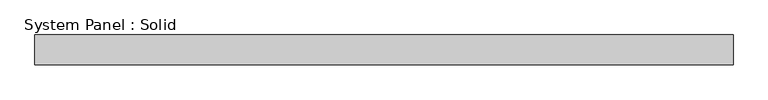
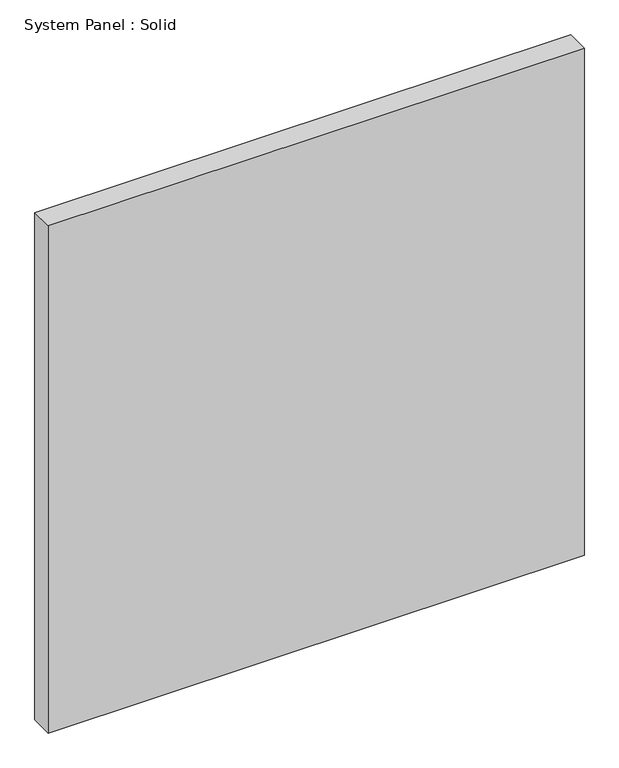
"""IFC4 building model written with IfcOpenShell, lengths in millimetres: plate geometry, System Panel : Solid."""

import ifcopenshell
import ifcopenshell.guid

model = None  # the IFC model being written
_history = None  # IfcOwnerHistory: only IFC2X3 demands one
_inside = {}  # id of a spatial element -> (the spatial element, [elements in it])
_under = {}  # id of a project, library or spatial element -> (it, [spatial elements below it])
_declared = {}  # id of a project -> (the project, [libraries it declares])
_typed = {}  # id of a type object -> (the type object, [elements of that type])
_made_of = {}  # id of a material, layer set ... -> (it, [elements and type objects made of it])


def new_model(schema):
    """Start an empty IFC model of exactly this schema.

    Asked for "IFC4X3", IfcOpenShell would pick the latest addendum, in which some entities
    have other attributes; the version numbers below select the first issue.
    IFC2X3 requires an IfcOwnerHistory on every rooted entity: one is made here for all.
    """
    global model, _history
    if schema == "IFC4X3":
        model = ifcopenshell.file(schema_version=(4, 3, 0, 0))
    else:
        model = ifcopenshell.file(schema=schema)
    _inside.clear()
    _under.clear()
    _declared.clear()
    _typed.clear()
    _made_of.clear()
    _history = None
    if model.schema == "IFC2X3":
        org = make("IfcOrganization", Name="unknown")
        user = make(
            "IfcPersonAndOrganization",
            ThePerson=make("IfcPerson", FamilyName="unknown"),
            TheOrganization=org,
        )
        app = make(
            "IfcApplication",
            ApplicationDeveloper=org,
            Version="unknown",
            ApplicationFullName="unknown",
            ApplicationIdentifier="unknown",
        )
        _history = make(
            "IfcOwnerHistory",
            OwningUser=user,
            OwningApplication=app,
            ChangeAction="ADDED",
            CreationDate=0,
        )
    return model


def make(cls, **values):
    """One entity of the class cls with the attributes given. An attribute that is None is left unset."""
    return model.create_entity(
        cls, **{name: value for name, value in values.items() if value is not None}
    )


def rooted(cls, **values):
    """An entity with a GlobalId (a new one), such as an element, a storey or a relation."""
    return make(cls, GlobalId=ifcopenshell.guid.new(), OwnerHistory=_history, **values)


def si_unit(unit_type, name, prefix=None):
    """IfcSIUnit, for example si_unit("LENGTHUNIT", "METRE", prefix="MILLI")."""
    return make("IfcSIUnit", UnitType=unit_type, Prefix=prefix, Name=name)


def assignment(units):
    """IfcUnitAssignment: the units of a project."""
    return None if units is None else make("IfcUnitAssignment", Units=units)


def point(xyz):
    """IfcCartesianPoint."""
    return None if xyz is None else make("IfcCartesianPoint", Coordinates=xyz)


def direction(xyz):
    """IfcDirection."""
    return None if xyz is None else make("IfcDirection", DirectionRatios=xyz)


def frame(location, z_axis=None, x_axis=None):
    """IfcAxis2Placement3D, a coordinate frame: its origin and axes. An axis left out is left unset."""
    return make(
        "IfcAxis2Placement3D",
        Location=point(location),
        Axis=direction(z_axis),
        RefDirection=direction(x_axis),
    )


def origin():
    """The frame at (0, 0, 0) with its axes left unset."""
    return frame((0.0, 0.0, 0.0))


def origin_with_axes():
    """The frame at (0, 0, 0) with the z axis (0, 0, 1) and the x axis (1, 0, 0) written out."""
    return frame((0.0, 0.0, 0.0), z_axis=(0.0, 0.0, 1.0), x_axis=(1.0, 0.0, 0.0))


def place(relative_to, where):
    """IfcLocalPlacement: puts the frame where relative to a parent placement (None: the world)."""
    return make(
        "IfcLocalPlacement", PlacementRelTo=relative_to, RelativePlacement=where
    )


def context(
    kind, dimensions, precision=None, world=None, true_north=None, identifier=None
):
    """IfcGeometricRepresentationContext, for example the 3D "Model" context."""
    return make(
        "IfcGeometricRepresentationContext",
        ContextIdentifier=identifier,
        ContextType=kind,
        CoordinateSpaceDimension=dimensions,
        Precision=precision,
        WorldCoordinateSystem=world,
        TrueNorth=true_north,
    )


def project(units=None, contexts=None):
    """IfcProject with its units and contexts."""
    return rooted(
        "IfcProject",
        Name="project",
        RepresentationContexts=contexts,
        UnitsInContext=assignment(units),
    )


def spatial(cls, under=None, at=None, **own):
    """A site, building, storey or space (cls), placed at a placement, below another one or the project."""
    s = rooted(cls, ObjectPlacement=at, **own)
    if under is not None:
        _under.setdefault(under.id(), (under, []))[1].append(s)
    return s


def polyline(points):
    """IfcPolyline through the points."""
    return make("IfcPolyline", Points=[point(p) for p in points])


def outline(outer, holes=None, kind="AREA"):
    """IfcArbitraryClosedProfileDef: a profile drawn as a closed curve; with holes, ...WithVoids."""
    if holes is None:
        return make("IfcArbitraryClosedProfileDef", ProfileType=kind, OuterCurve=outer)
    return make(
        "IfcArbitraryProfileDefWithVoids",
        ProfileType=kind,
        OuterCurve=outer,
        InnerCurves=holes,
    )


def extrude(swept, where, along, depth):
    """IfcExtrudedAreaSolid: the profile swept, set in the frame where, extruded along a direction by depth."""
    return make(
        "IfcExtrudedAreaSolid",
        SweptArea=swept,
        Position=where,
        ExtrudedDirection=direction(along),
        Depth=depth,
    )


def shape(context_of_items, identifier, shape_type, items):
    """IfcShapeRepresentation: the items that make up one representation, for example the "Body"."""
    return make(
        "IfcShapeRepresentation",
        ContextOfItems=context_of_items,
        RepresentationIdentifier=identifier,
        RepresentationType=shape_type,
        Items=items,
    )


def source(mapping_origin, context_of_items, identifier, shape_type, items):
    """IfcRepresentationMap: a shape defined once, which mapped items show again and again."""
    return make(
        "IfcRepresentationMap",
        MappingOrigin=mapping_origin,
        MappedRepresentation=shape(context_of_items, identifier, shape_type, items),
    )


def transform(
    local_origin,
    x_axis=None,
    y_axis=None,
    z_axis=None,
    scale=None,
    scale2=None,
    scale3=None,
    uniform=True,
):
    """IfcCartesianTransformationOperator3D, or its non-uniform kind. x_axis, y_axis, z_axis: its Axis1, 2, 3."""
    if uniform:
        return make(
            "IfcCartesianTransformationOperator3D",
            Axis1=direction(x_axis),
            Axis2=direction(y_axis),
            LocalOrigin=point(local_origin),
            Scale=scale,
            Axis3=direction(z_axis),
        )
    return make(
        "IfcCartesianTransformationOperator3DnonUniform",
        Axis1=direction(x_axis),
        Axis2=direction(y_axis),
        LocalOrigin=point(local_origin),
        Scale=scale,
        Axis3=direction(z_axis),
        Scale2=scale2,
        Scale3=scale3,
    )


def mapped(mapping_source, mapping_target):
    """IfcMappedItem: shows the shape of a source again, moved by a transform."""
    return make(
        "IfcMappedItem", MappingSource=mapping_source, MappingTarget=mapping_target
    )


def made_of(thing, what):
    """Note that an element or type object is made of a material, layer set ...; save() writes the relation."""
    if what is not None:
        _made_of.setdefault(what.id(), (what, []))[1].append(thing)
    return thing


def element(
    cls,
    number,
    at=None,
    inside=None,
    cuts=None,
    type_object=None,
    material=None,
    context=None,
    identifier="Body",
    shape_type=None,
    held_by="IfcProductDefinitionShape",
    body=None,
    shapes=None,
    **own,
):
    """One element of the class cls, such as IfcWall. Its Tag is "e" and its number.

    at: its placement. inside: the storey or other place that contains it. cuts: it is an
    opening in that element (IfcRelVoidsElement). A single representation is given by context,
    identifier, shape_type and body (its items); several are given by shapes. held_by: the class
    of the entity that holds the representations. save() writes the other relations.
    """
    e = rooted(cls, Tag="e%d" % number, ObjectPlacement=at, **own)
    if body is not None:
        shapes = [shape(context, identifier, shape_type, body)]
    if shapes is not None:
        e.Representation = make(held_by, Representations=shapes)
    if inside is not None:
        _inside.setdefault(inside.id(), (inside, []))[1].append(e)
    if cuts is not None:
        rooted(
            "IfcRelVoidsElement", RelatingBuildingElement=cuts, RelatedOpeningElement=e
        )
    if type_object is not None:
        _typed.setdefault(type_object.id(), (type_object, []))[1].append(e)
    return made_of(e, material)


def aggregate(whole, parts):
    """IfcRelAggregates: a whole, such as a stair, and the parts it consists of."""
    return rooted("IfcRelAggregates", RelatingObject=whole, RelatedObjects=parts)


def save(model, path):
    """Write the relations noted so far, then the file.

    IfcRelAggregates (storeys below a building ...), IfcRelContainedInSpatialStructure (elements
    in a storey), IfcRelDefinesByType, IfcRelAssociatesMaterial and IfcRelDeclares: one each for
    every whole, place, type object, material and project.
    """
    for whole, parts in _under.values():
        aggregate(whole, parts)
    for where, things in _inside.values():
        rooted(
            "IfcRelContainedInSpatialStructure",
            RelatedElements=things,
            RelatingStructure=where,
        )
    for kind, things in _typed.values():
        rooted("IfcRelDefinesByType", RelatedObjects=things, RelatingType=kind)
    for what, things in _made_of.values():
        rooted("IfcRelAssociatesMaterial", RelatedObjects=things, RelatingMaterial=what)
    for by, libraries in _declared.values():
        rooted("IfcRelDeclares", RelatingContext=by, RelatedDefinitions=libraries)
    model.write(path)


def system_panel_solid_5fd6f37f(model_context):
    return source(origin(), model_context, "Body", "SweptSolid", [
        extrude(outline(polyline([(742.95, -19.05), (-742.95, -19.05), (-742.95, 44.45), (742.95, 44.45), (742.95, -19.05)])), origin_with_axes(), (0.0, 0.0, 1.0), 1485.9),
    ])


if __name__ == "__main__":
    model = new_model("IFC4")
    model_context = context("Model", 3, world=origin())
    ifc_project = project(units=[si_unit("LENGTHUNIT", "METRE", prefix="MILLI")], contexts=[model_context])
    site = spatial("IfcSite", under=ifc_project)
    building = spatial("IfcBuilding", under=site)
    placement = place(None, origin())
    system_panel_solid_shape = system_panel_solid_5fd6f37f(model_context)
    element("IfcPlate", 1, ObjectType="System Panel : Solid", at=placement, inside=building, context=model_context, shape_type="MappedRepresentation", body=[
        mapped(system_panel_solid_shape, transform((0.0, 0.0, 0.0), x_axis=(1.0, 0.0, 0.0), y_axis=(0.0, 1.0, 0.0), z_axis=(0.0, 0.0, 1.0))),
    ])
    save(model, "model.ifc")
